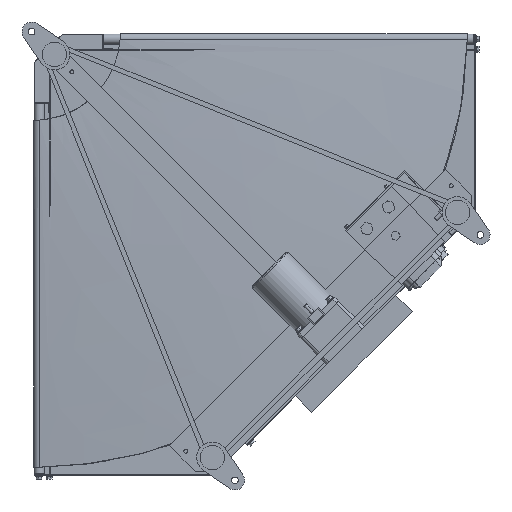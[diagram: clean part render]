
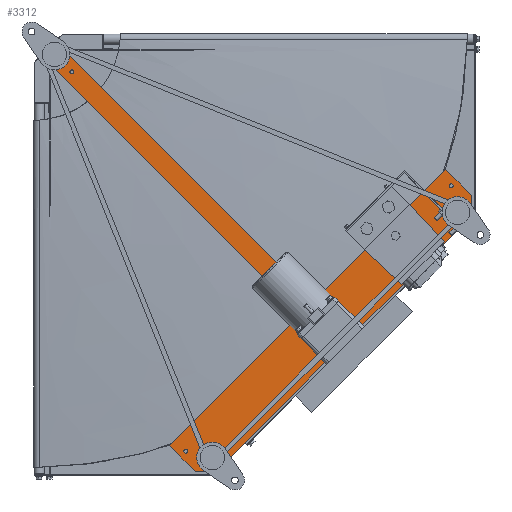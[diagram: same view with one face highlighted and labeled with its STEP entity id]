
A CAD part, front view. The second image highlights one B-rep face of the part: STEP entity #3312.
In plain terms, the highlighted planar face has unit normal (0, -1, 0).
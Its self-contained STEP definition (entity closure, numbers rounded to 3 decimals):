
#765 = VECTOR ( 'NONE', #8754, 1000. ) ;
#1469 = DIRECTION ( 'NONE',  ( -0.707, 0., 0.707 ) ) ;
#1507 = VECTOR ( 'NONE', #12484, 1000. ) ;
#2462 = VERTEX_POINT ( 'NONE', #12339 ) ;
#2930 = VECTOR ( 'NONE', #27614, 1000. ) ;
#3189 = VERTEX_POINT ( 'NONE', #16753 ) ;
#3312 = ADVANCED_FACE ( 'NONE', ( #13643 ), #47568, .T. ) ;
#4217 = CARTESIAN_POINT ( 'NONE',  ( 856.66, -167.5, -358.15 ) ) ;
#4304 = EDGE_CURVE ( 'NONE', #38364, #2462, #43596, .T. ) ;
#4818 = EDGE_CURVE ( 'NONE', #18474, #15515, #28949, .T. ) ;
#5086 = LINE ( 'NONE', #43757, #12302 ) ;
#5279 = ORIENTED_EDGE ( 'NONE', *, *, #4818, .F. ) ;
#5504 = CARTESIAN_POINT ( 'NONE',  ( 266.226, -167.5, -807.162 ) ) ;
#5524 = CARTESIAN_POINT ( 'NONE',  ( 315.723, -167.5, -856.66 ) ) ;
#5673 = CARTESIAN_POINT ( 'NONE',  ( 856.66, -167.5, -315.723 ) ) ;
#5831 = VERTEX_POINT ( 'NONE', #5673 ) ;
#6178 = DIRECTION ( 'NONE',  ( 0., 0., -1. ) ) ;
#6368 = EDGE_CURVE ( 'NONE', #5831, #38364, #10324, .T. ) ;
#7410 = CARTESIAN_POINT ( 'NONE',  ( 315.723, -167.5, -856.66 ) ) ;
#7517 = LINE ( 'NONE', #9642, #17721 ) ;
#7902 = VECTOR ( 'NONE', #17268, 1000. ) ;
#8754 = DIRECTION ( 'NONE',  ( 0., 0., -1. ) ) ;
#9642 = CARTESIAN_POINT ( 'NONE',  ( 807.162, -167.5, -266.226 ) ) ;
#10324 = LINE ( 'NONE', #4217, #765 ) ;
#11600 = DIRECTION ( 'NONE',  ( -1., 0., 0. ) ) ;
#11740 = LINE ( 'NONE', #46692, #1507 ) ;
#12117 = ORIENTED_EDGE ( 'NONE', *, *, #4304, .F. ) ;
#12233 = EDGE_LOOP ( 'NONE', ( #31551, #5279, #23129, #20276, #12117, #46346, #18206, #41554, #43631, #29430 ) ) ;
#12302 = VECTOR ( 'NONE', #1469, 1000. ) ;
#12339 = CARTESIAN_POINT ( 'NONE',  ( 358.15, -167.5, -856.66 ) ) ;
#12484 = DIRECTION ( 'NONE',  ( 0.707, 0., 0.707 ) ) ;
#13643 = FACE_OUTER_BOUND ( 'NONE', #12233, .T. ) ;
#13720 = DIRECTION ( 'NONE',  ( 0., -1., 0. ) ) ;
#14980 = EDGE_CURVE ( 'NONE', #15515, #36778, #5086, .T. ) ;
#15348 = EDGE_CURVE ( 'NONE', #36778, #29208, #11740, .T. ) ;
#15372 = CARTESIAN_POINT ( 'NONE',  ( 15.203, -167.5, -42.073 ) ) ;
#15515 = VERTEX_POINT ( 'NONE', #40141 ) ;
#15875 = LINE ( 'NONE', #32692, #20706 ) ;
#16753 = CARTESIAN_POINT ( 'NONE',  ( 807.162, -167.5, -266.226 ) ) ;
#17268 = DIRECTION ( 'NONE',  ( 0.707, 0., 0.707 ) ) ;
#17721 = VECTOR ( 'NONE', #18197, 1000. ) ;
#18197 = DIRECTION ( 'NONE',  ( 0.707, 0., -0.707 ) ) ;
#18206 = ORIENTED_EDGE ( 'NONE', *, *, #28994, .F. ) ;
#18474 = VERTEX_POINT ( 'NONE', #5504 ) ;
#19703 = LINE ( 'NONE', #20890, #43226 ) ;
#19880 = EDGE_CURVE ( 'NONE', #2462, #23196, #36632, .T. ) ;
#20276 = ORIENTED_EDGE ( 'NONE', *, *, #19880, .F. ) ;
#20706 = VECTOR ( 'NONE', #49679, 1000. ) ;
#20890 = CARTESIAN_POINT ( 'NONE',  ( 266.226, -167.5, -807.162 ) ) ;
#21050 = DIRECTION ( 'NONE',  ( -0.707, 0., -0.707 ) ) ;
#21573 = DIRECTION ( 'NONE',  ( -0.707, 0., 0.707 ) ) ;
#23129 = ORIENTED_EDGE ( 'NONE', *, *, #37770, .F. ) ;
#23196 = VERTEX_POINT ( 'NONE', #5524 ) ;
#25488 = CARTESIAN_POINT ( 'NONE',  ( 856.66, -167.5, -358.15 ) ) ;
#26582 = AXIS2_PLACEMENT_3D ( 'NONE', #48744, #13720, #6178 ) ;
#27614 = DIRECTION ( 'NONE',  ( 0.707, 0., 0.707 ) ) ;
#28949 = LINE ( 'NONE', #36643, #7902 ) ;
#28991 = EDGE_CURVE ( 'NONE', #29208, #45142, #15875, .T. ) ;
#28994 = EDGE_CURVE ( 'NONE', #3189, #5831, #7517, .T. ) ;
#29122 = VECTOR ( 'NONE', #21050, 1000. ) ;
#29208 = VERTEX_POINT ( 'NONE', #35010 ) ;
#29430 = ORIENTED_EDGE ( 'NONE', *, *, #15348, .F. ) ;
#31551 = ORIENTED_EDGE ( 'NONE', *, *, #14980, .F. ) ;
#32692 = CARTESIAN_POINT ( 'NONE',  ( 42.073, -167.5, -15.203 ) ) ;
#34847 = VECTOR ( 'NONE', #11600, 1000. ) ;
#34986 = CARTESIAN_POINT ( 'NONE',  ( 266.226, -167.5, -807.162 ) ) ;
#35010 = CARTESIAN_POINT ( 'NONE',  ( 42.073, -167.5, -15.203 ) ) ;
#36632 = LINE ( 'NONE', #7410, #34847 ) ;
#36643 = CARTESIAN_POINT ( 'NONE',  ( 266.226, -167.5, -807.162 ) ) ;
#36778 = VERTEX_POINT ( 'NONE', #15372 ) ;
#37770 = EDGE_CURVE ( 'NONE', #23196, #18474, #19703, .T. ) ;
#38364 = VERTEX_POINT ( 'NONE', #25488 ) ;
#40141 = CARTESIAN_POINT ( 'NONE',  ( 523.259, -167.5, -550.129 ) ) ;
#41554 = ORIENTED_EDGE ( 'NONE', *, *, #43699, .F. ) ;
#43192 = CARTESIAN_POINT ( 'NONE',  ( 358.15, -167.5, -856.66 ) ) ;
#43226 = VECTOR ( 'NONE', #21573, 1000. ) ;
#43323 = LINE ( 'NONE', #34986, #2930 ) ;
#43596 = LINE ( 'NONE', #43192, #29122 ) ;
#43631 = ORIENTED_EDGE ( 'NONE', *, *, #28991, .F. ) ;
#43699 = EDGE_CURVE ( 'NONE', #45142, #3189, #43323, .T. ) ;
#43757 = CARTESIAN_POINT ( 'NONE',  ( 15.203, -167.5, -42.073 ) ) ;
#45142 = VERTEX_POINT ( 'NONE', #48797 ) ;
#46346 = ORIENTED_EDGE ( 'NONE', *, *, #6368, .F. ) ;
#46692 = CARTESIAN_POINT ( 'NONE',  ( 15.203, -167.5, -42.073 ) ) ;
#47568 = PLANE ( 'NONE',  #26582 ) ;
#48744 = CARTESIAN_POINT ( 'NONE',  ( 0., -167.5, 0. ) ) ;
#48797 = CARTESIAN_POINT ( 'NONE',  ( 550.129, -167.5, -523.259 ) ) ;
#49679 = DIRECTION ( 'NONE',  ( 0.707, 0., -0.707 ) ) ;
